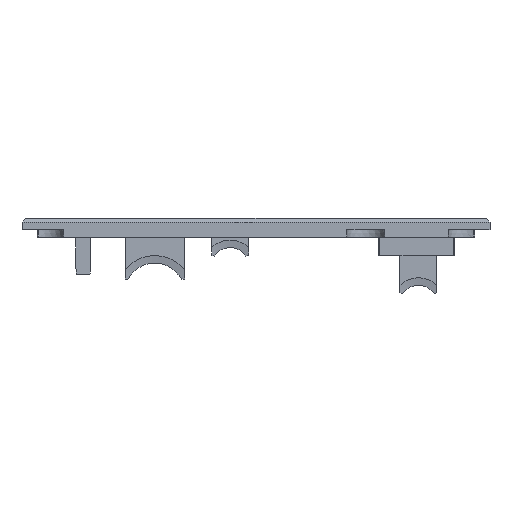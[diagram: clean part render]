
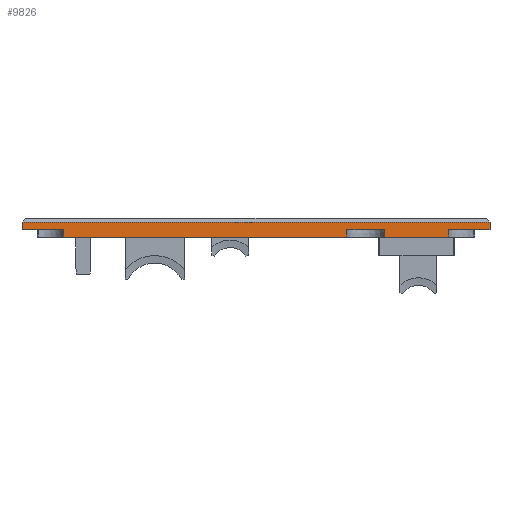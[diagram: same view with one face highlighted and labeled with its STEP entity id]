
A CAD part, front view. The second image highlights one B-rep face of the part: STEP entity #9826.
In plain terms, the highlighted planar face has unit normal (0, -1, 0).
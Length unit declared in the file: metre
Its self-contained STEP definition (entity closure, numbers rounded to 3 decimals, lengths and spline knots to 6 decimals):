
#1220=ORIENTED_EDGE('',*,*,#4031,.F.);
#1221=ORIENTED_EDGE('',*,*,#4103,.T.);
#1222=ORIENTED_EDGE('',*,*,#4104,.T.);
#1223=ORIENTED_EDGE('',*,*,#4065,.F.);
#1224=ORIENTED_EDGE('',*,*,#4105,.T.);
#1225=ORIENTED_EDGE('',*,*,#4080,.T.);
#1226=ORIENTED_EDGE('',*,*,#4106,.T.);
#1227=ORIENTED_EDGE('',*,*,#4061,.F.);
#1228=ORIENTED_EDGE('',*,*,#4107,.T.);
#1229=ORIENTED_EDGE('',*,*,#3608,.F.);
#1230=ORIENTED_EDGE('',*,*,#4108,.T.);
#1231=ORIENTED_EDGE('',*,*,#4011,.F.);
#3608=EDGE_CURVE('',#5053,#5054,#6001,.T.);
#4011=EDGE_CURVE('',#5456,#5457,#6348,.T.);
#4031=EDGE_CURVE('',#5472,#5456,#6359,.T.);
#4061=EDGE_CURVE('',#5498,#5499,#6380,.T.);
#4065=EDGE_CURVE('',#5502,#5503,#6384,.T.);
#4080=EDGE_CURVE('',#5517,#5518,#6390,.T.);
#4103=EDGE_CURVE('',#5472,#5540,#6408,.T.);
#4104=EDGE_CURVE('',#5540,#5503,#6409,.T.);
#4105=EDGE_CURVE('',#5502,#5517,#6410,.F.);
#4106=EDGE_CURVE('',#5518,#5499,#6411,.T.);
#4107=EDGE_CURVE('',#5498,#5054,#6412,.F.);
#4108=EDGE_CURVE('',#5053,#5457,#6413,.T.);
#5053=VERTEX_POINT('',#14260);
#5054=VERTEX_POINT('',#14262);
#5456=VERTEX_POINT('',#15078);
#5457=VERTEX_POINT('',#15080);
#5472=VERTEX_POINT('',#15123);
#5498=VERTEX_POINT('',#15187);
#5499=VERTEX_POINT('',#15189);
#5502=VERTEX_POINT('',#15195);
#5503=VERTEX_POINT('',#15197);
#5517=VERTEX_POINT('',#15233);
#5518=VERTEX_POINT('',#15234);
#5540=VERTEX_POINT('',#15289);
#6001=LINE('',#14261,#7216);
#6348=LINE('',#15079,#7563);
#6359=LINE('',#15124,#7574);
#6380=LINE('',#15188,#7595);
#6384=LINE('',#15196,#7599);
#6390=LINE('',#15232,#7605);
#6408=LINE('',#15288,#7623);
#6409=LINE('',#15290,#7624);
#6410=LINE('',#15291,#7625);
#6411=LINE('',#15292,#7626);
#6412=LINE('',#15293,#7627);
#6413=LINE('',#15294,#7628);
#7216=VECTOR('',#11357,1.);
#7563=VECTOR('',#11816,1.);
#7574=VECTOR('',#11847,1.);
#7595=VECTOR('',#11886,1.);
#7599=VECTOR('',#11890,1.);
#7605=VECTOR('',#11912,1.);
#7623=VECTOR('',#11944,1.);
#7624=VECTOR('',#11945,1.);
#7625=VECTOR('',#11946,1.);
#7626=VECTOR('',#11947,1.);
#7627=VECTOR('',#11948,1.);
#7628=VECTOR('',#11949,1.);
#8232=EDGE_LOOP('',(#1220,#1221,#1222,#1223,#1224,#1225,#1226,#1227,#1228,
#1229,#1230,#1231));
#8897=FACE_BOUND('',#8232,.T.);
#9420=PLANE('',#10429);
#9826=ADVANCED_FACE('',(#8897),#9420,.T.);
#10429=AXIS2_PLACEMENT_3D('',#15287,#11942,#11943);
#11357=DIRECTION('',(-1.,0.,0.));
#11816=DIRECTION('',(-1.,0.,0.));
#11847=DIRECTION('',(0.,0.,-1.));
#11886=DIRECTION('',(-1.,0.,0.));
#11890=DIRECTION('',(-1.,0.,0.));
#11912=DIRECTION('',(1.,0.,0.));
#11942=DIRECTION('',(0.,-1.,0.));
#11943=DIRECTION('',(0.,0.,-1.));
#11944=DIRECTION('',(-1.,0.,0.));
#11945=DIRECTION('',(0.,0.,-1.));
#11946=DIRECTION('',(-0.052,0.,0.999));
#11947=DIRECTION('',(0.,0.,1.));
#11948=DIRECTION('',(-0.052,0.,0.999));
#11949=DIRECTION('',(0.052,0.,0.999));
#14260=CARTESIAN_POINT('',(0.054776,-0.101208,0.396));
#14261=CARTESIAN_POINT('',(0.046381,-0.101208,0.396));
#14262=CARTESIAN_POINT('',(0.037986,-0.101208,0.396));
#15078=CARTESIAN_POINT('',(0.065881,-0.101208,0.398));
#15079=CARTESIAN_POINT('',(-0.009744,-0.101208,0.398));
#15080=CARTESIAN_POINT('',(0.054881,-0.101208,0.398));
#15123=CARTESIAN_POINT('',(0.065881,-0.101208,0.4));
#15124=CARTESIAN_POINT('',(0.065881,-0.101208,0.401));
#15187=CARTESIAN_POINT('',(0.037881,-0.101208,0.398));
#15188=CARTESIAN_POINT('',(-0.009744,-0.101208,0.398));
#15189=CARTESIAN_POINT('',(0.027881,-0.101208,0.398));
#15195=CARTESIAN_POINT('',(-0.047369,-0.101208,0.398));
#15196=CARTESIAN_POINT('',(-0.009744,-0.101208,0.398));
#15197=CARTESIAN_POINT('',(-0.058369,-0.101208,0.398));
#15232=CARTESIAN_POINT('',(-0.009744,-0.101208,0.396));
#15233=CARTESIAN_POINT('',(-0.047264,-0.101208,0.396));
#15234=CARTESIAN_POINT('',(0.027881,-0.101208,0.396));
#15287=CARTESIAN_POINT('',(0.046381,-0.101208,0.398));
#15288=CARTESIAN_POINT('',(0.046381,-0.101208,0.4));
#15289=CARTESIAN_POINT('',(-0.058369,-0.101208,0.4));
#15290=CARTESIAN_POINT('',(-0.058369,-0.101208,0.401));
#15291=CARTESIAN_POINT('',(-0.047112,-0.101208,0.3931));
#15292=CARTESIAN_POINT('',(0.027881,-0.101208,0.395998));
#15293=CARTESIAN_POINT('',(0.037905,-0.101208,0.397556));
#15294=CARTESIAN_POINT('',(0.054858,-0.101208,0.397556));
